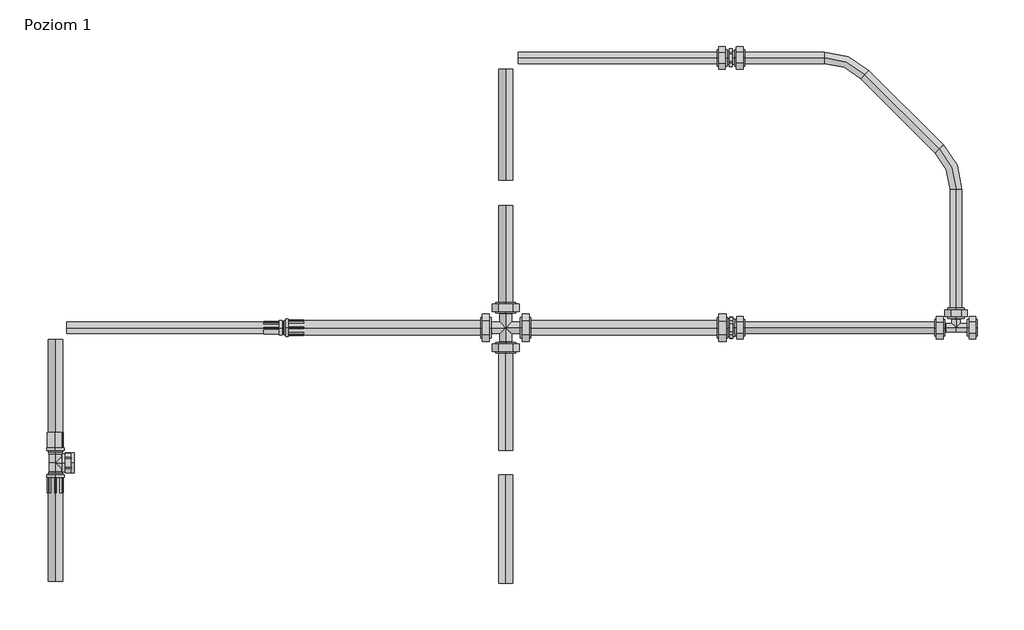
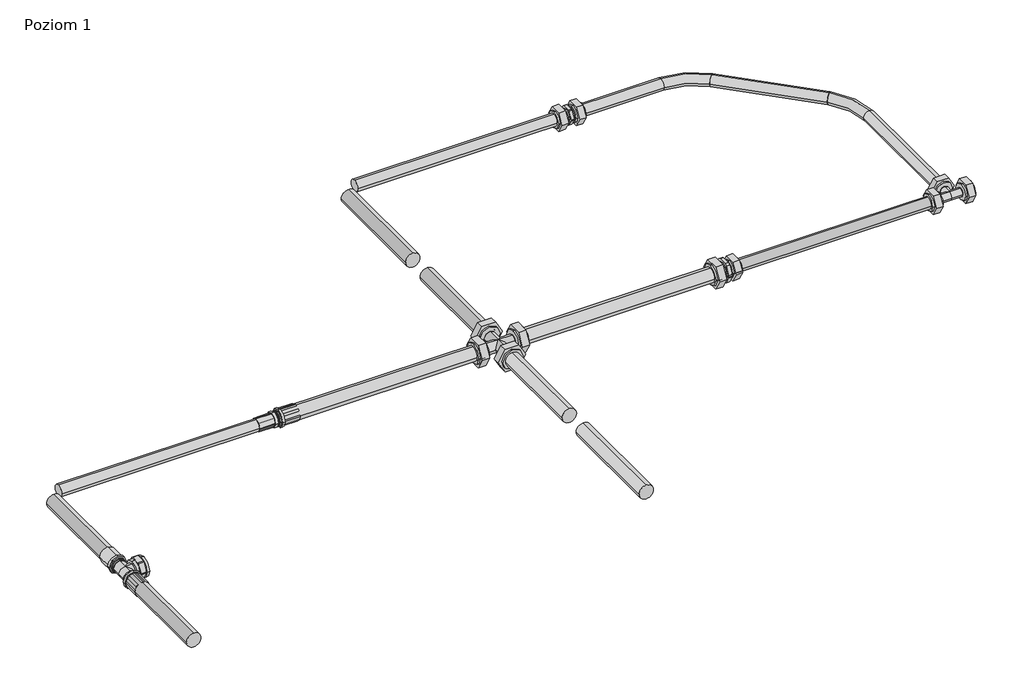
# One storey, incomplete: 14 pipe segments, 8 pipe fittings.
"""IFC4 building model written with IfcOpenShell, lengths in millimetres."""

from ifc_helpers import new_model, si_unit, point, frame, frame_2d, origin, place, context, project, spatial, circle_curve, trimmed, segment, composite_curve, outline, extrude, transform, mapped, element, save
from components import pipe_fitting_dd8a0c7b, pipe_fitting_013305a4, pipe_fitting_8bebbaeb, pipe_fitting_6f00802d, pipe_fitting_327e5bcb, pipe_fitting_d41fe6a2, pipe_fitting_75d7e237

model = new_model("IFC4")

# Units and contexts
model_context = context("Model", 3, world=origin())
ifc_project = project(units=[si_unit("LENGTHUNIT", "METRE", prefix="MILLI")], contexts=[model_context])

# Site, building, storey
site = spatial("IfcSite", under=ifc_project)
building = spatial("IfcBuilding", under=site)
storey = spatial("IfcBuildingStorey", under=building, Name="Poziom 1", Elevation=0.0)

# Pipe fittings
placement = place(None, origin())
pipe_fitting_shape = pipe_fitting_dd8a0c7b(model_context)
element("IfcPipeFitting", 1, ObjectType="HC-Kształtka-ParaForma-Tweetop-PERT-Trójnik : Tweetop", at=placement, inside=storey, context=model_context, shape_type="MappedRepresentation", body=[
    mapped(pipe_fitting_shape, transform((5207.5, 1000.0, 0.0), x_axis=(-1.0, 0.0, 0.0), y_axis=(0.0, -1.0, 0.0), z_axis=(0.0, 0.0, 1.0))),
])
pipe_fitting_2_shape = pipe_fitting_013305a4(model_context)
element("IfcPipeFitting", 2, ObjectType="HC-Kształtka-ParaForma-Tweetop-PERT-Trójnik_GW : Tweetop", at=placement, inside=storey, context=model_context, shape_type="MappedRepresentation", body=[
    mapped(pipe_fitting_2_shape, transform((3957.5, 812.5, 0.0), x_axis=(0.0, 1.0, 0.0), y_axis=(-1.0, 0.0, 0.0), z_axis=(0.0, 0.0, 1.0))),
])
pipe_fitting_3_shape = pipe_fitting_8bebbaeb(model_context)
element("IfcPipeFitting", 3, ObjectType="HC-Kształtka-ParaForma-Tweetop-PERT-Złączka : Tweetop", at=placement, inside=storey, context=model_context, shape_type="MappedRepresentation", body=[
    mapped(pipe_fitting_3_shape, transform((4895.0, 1375.0, 0.0), x_axis=(-1.0, 0.0, 0.0), y_axis=(0.0, -1.0, 0.0), z_axis=(0.0, 0.0, 1.0))),
])
pipe_fitting_4_shape = pipe_fitting_6f00802d(model_context)
element("IfcPipeFitting", 4, ObjectType="HC-Kształtka-ParaForma-Tweetop-PERT-Redukcja : Tweetop", at=placement, inside=storey, context=model_context, shape_type="MappedRepresentation", body=[
    mapped(pipe_fitting_4_shape, transform((4895.5, 1000.0, 0.0), x_axis=(1.0, 0.0, 0.0), y_axis=(0.0, 1.0, 0.0), z_axis=(0.0, 0.0, 1.0))),
])
pipe_fitting_5_shape = pipe_fitting_327e5bcb(model_context)
element("IfcPipeFitting", 5, ObjectType="HC-Kształtka-ParaForma-Tweetop-PERT-Redukcja : Tweetop", at=placement, inside=storey, context=model_context, shape_type="MappedRepresentation", body=[
    mapped(pipe_fitting_5_shape, transform((4274.5, 1000.0, 0.0), x_axis=(-1.0, 0.0, 0.0), y_axis=(0.0, -1.0, 0.0), z_axis=(0.0, 0.0, 1.0))),
])
pipe_fitting_6_shape = pipe_fitting_d41fe6a2(model_context)
element("IfcPipeFitting", 6, ObjectType="HC-Kształtka-ParaForma-Tweetop-PERT-Rura_PERT_EVOH_PERT_Gięcie : Tweetop", at=placement, inside=storey, context=model_context, shape_type="MappedRepresentation", body=[
    mapped(pipe_fitting_6_shape, transform((5057.5, 1375.0, 0.0), x_axis=(-0.7071067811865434, 0.7071067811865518, 0.0), y_axis=(-0.7071067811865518, -0.7071067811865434, 0.0), z_axis=(0.0, 0.0, 1.0))),
])
element("IfcPipeFitting", 7, ObjectType="HC-Kształtka-ParaForma-Tweetop-PERT-Rura_PERT_EVOH_PERT_Gięcie : Tweetop", at=placement, inside=storey, context=model_context, shape_type="MappedRepresentation", body=[
    mapped(pipe_fitting_6_shape, transform((5207.5, 1225.0, 0.0), x_axis=(0.0, 1.0, 0.0), y_axis=(-1.0, 0.0, 0.0), z_axis=(0.0, 0.0, 1.0))),
])
pipe_fitting_7_shape = pipe_fitting_75d7e237(model_context)
element("IfcPipeFitting", 8, ObjectType="HC-Kształtka-ParaForma-Tweetop-PERT-Czwórnik : Tweetop", at=placement, inside=storey, context=model_context, shape_type="MappedRepresentation", body=[
    mapped(pipe_fitting_7_shape, transform((4582.5, 1000.0, 0.0), x_axis=(0.0, -1.0, 0.0), y_axis=(-1.0, 0.0, 0.0), z_axis=(0.0, 0.0, -1.0))),
])

# Pipe segments
element("IfcPipeSegment", 9, ObjectType="HC-Rura-ParaForma-Tweetop-PERT-EVOH-PERT", at=placement, inside=storey, context=model_context, shape_type="SweptSolid", body=[
    extrude(outline(composite_curve([segment(trimmed(circle_curve(frame_2d((0.0, 8.0)), 8.0), [point((8.0, 8.0))], [point((0.0, 0.0))], False, "CARTESIAN"), True, "CONTINUOUS"), segment(trimmed(circle_curve(frame_2d((0.0, 8.0)), 8.0), [point((0.0, 0.0))], [point((-8.0, 8.0))], False, "CARTESIAN"), True, "CONTINUOUS"), segment(trimmed(circle_curve(frame_2d((0.0, 8.0)), 8.0), [point((-8.0, 8.0))], [point((0.0, 16.0))], False, "CARTESIAN"), True, "CONTINUOUS"), segment(trimmed(circle_curve(frame_2d((0.0, 8.0)), 8.0), [point((0.0, 16.0))], [point((8.0, 8.0))], False, "CARTESIAN"), True, "CONTINUOUS")], self_intersect=False)), frame((5184.0685425, 1248.4314575, 8.0), z_axis=(-0.7071067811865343, 0.7071067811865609, 0.0), x_axis=(0.7071067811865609, 0.7071067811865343, 0.0)), (0.0, 0.0, 1.0), 145.8578644),
])
element("IfcPipeSegment", 10, ObjectType="HC-Rura-ParaForma-Tweetop-PERT-EVOH-PERT", at=placement, inside=storey, context=model_context, shape_type="SweptSolid", body=[
    extrude(outline(composite_curve([segment(trimmed(circle_curve(frame_2d((0.0, 5207.5)), 8.0), [point((0.0, 5215.5))], [point((8.0, 5207.5))], False, "CARTESIAN"), True, "CONTINUOUS"), segment(trimmed(circle_curve(frame_2d((0.0, 5207.5)), 8.0), [point((8.0, 5207.5))], [point((0.0, 5199.5))], False, "CARTESIAN"), True, "CONTINUOUS"), segment(trimmed(circle_curve(frame_2d((0.0, 5207.5)), 8.0), [point((0.0, 5199.5))], [point((-8.0, 5207.5))], False, "CARTESIAN"), True, "CONTINUOUS"), segment(trimmed(circle_curve(frame_2d((0.0, 5207.5)), 8.0), [point((-8.0, 5207.5))], [point((0.0, 5215.5))], False, "CARTESIAN"), True, "CONTINUOUS")], self_intersect=False)), frame((0.0, 1015.0, 0.0), z_axis=(0.0, 1.0, 0.0), x_axis=(0.0, 0.0, 1.0)), (0.0, 0.0, 1.0), 176.862915),
])
element("IfcPipeSegment", 11, ObjectType="HC-Rura-ParaForma-Tweetop-PERT-EVOH-PERT", at=placement, inside=storey, context=model_context, shape_type="SweptSolid", body=[
    extrude(outline(composite_curve([segment(trimmed(circle_curve(frame_2d((0.0, 4582.5)), 10.0), [point((0.0, 4572.5))], [point((-10.0, 4582.5))], False, "CARTESIAN"), True, "CONTINUOUS"), segment(trimmed(circle_curve(frame_2d((0.0, 4582.5)), 10.0), [point((-10.0, 4582.5))], [point((0.0, 4592.5))], False, "CARTESIAN"), True, "CONTINUOUS"), segment(trimmed(circle_curve(frame_2d((0.0, 4582.5)), 10.0), [point((0.0, 4592.5))], [point((10.0, 4582.5))], False, "CARTESIAN"), True, "CONTINUOUS"), segment(trimmed(circle_curve(frame_2d((0.0, 4582.5)), 10.0), [point((10.0, 4582.5))], [point((0.0, 4572.5))], False, "CARTESIAN"), True, "CONTINUOUS")], self_intersect=False)), frame((0.0, 1022.2, 0.0), z_axis=(0.0, 1.0, 0.0), x_axis=(0.0, 0.0, 1.0)), (0.0, 0.0, 1.0), 147.8),
])
element("IfcPipeSegment", 12, ObjectType="HC-Rura-ParaForma-Tweetop-PERT/Al/PERT", at=placement, inside=storey, context=model_context, shape_type="SweptSolid", body=[
    extrude(outline(composite_curve([segment(trimmed(circle_curve(frame_2d((0.0, 4582.5)), 10.0), [point((0.0, 4592.5))], [point((10.0, 4582.5))], False, "CARTESIAN"), True, "CONTINUOUS"), segment(trimmed(circle_curve(frame_2d((0.0, 4582.5)), 10.0), [point((10.0, 4582.5))], [point((0.0, 4572.5))], False, "CARTESIAN"), True, "CONTINUOUS"), segment(trimmed(circle_curve(frame_2d((0.0, 4582.5)), 10.0), [point((0.0, 4572.5))], [point((-10.0, 4582.5))], False, "CARTESIAN"), True, "CONTINUOUS"), segment(trimmed(circle_curve(frame_2d((0.0, 4582.5)), 10.0), [point((-10.0, 4582.5))], [point((0.0, 4592.5))], False, "CARTESIAN"), True, "CONTINUOUS")], self_intersect=False)), frame((0.0, 829.5, 0.0), z_axis=(0.0, 1.0, 0.0), x_axis=(0.0, 0.0, 1.0)), (0.0, 0.0, 1.0), 148.3),
])
element("IfcPipeSegment", 13, ObjectType="HC-Rura-ParaForma-Tweetop-PERT/Al/PERT", at=placement, inside=storey, context=model_context, shape_type="SweptSolid", body=[
    extrude(outline(composite_curve([segment(trimmed(circle_curve(frame_2d((0.0, 3957.5)), 10.0), [point((0.0, 3947.5))], [point((-10.0, 3957.5))], False, "CARTESIAN"), True, "CONTINUOUS"), segment(trimmed(circle_curve(frame_2d((0.0, 3957.5)), 10.0), [point((-10.0, 3957.5))], [point((0.0, 3967.5))], False, "CARTESIAN"), True, "CONTINUOUS"), segment(trimmed(circle_curve(frame_2d((0.0, 3957.5)), 10.0), [point((0.0, 3967.5))], [point((10.0, 3957.5))], False, "CARTESIAN"), True, "CONTINUOUS"), segment(trimmed(circle_curve(frame_2d((0.0, 3957.5)), 10.0), [point((10.0, 3957.5))], [point((0.0, 3947.5))], False, "CARTESIAN"), True, "CONTINUOUS")], self_intersect=False)), frame((0.0, 648.0, 0.0), z_axis=(0.0, 1.0, 0.0), x_axis=(0.0, 0.0, 1.0)), (0.0, 0.0, 1.0), 145.5),
])
element("IfcPipeSegment", 14, ObjectType="HC-Rura-ParaForma-Tweetop-PERT-EVOH-PERT", at=placement, inside=storey, context=model_context, shape_type="SweptSolid", body=[
    extrude(outline(composite_curve([segment(trimmed(circle_curve(frame_2d((1000.0, 0.0)), 10.0), [point((1010.0, 0.0))], [point((1000.0, -10.0))], False, "CARTESIAN"), True, "CONTINUOUS"), segment(trimmed(circle_curve(frame_2d((1000.0, 0.0)), 10.0), [point((1000.0, -10.0))], [point((990.0, 0.0))], False, "CARTESIAN"), True, "CONTINUOUS"), segment(trimmed(circle_curve(frame_2d((1000.0, 0.0)), 10.0), [point((990.0, 0.0))], [point((1000.0, 10.0))], False, "CARTESIAN"), True, "CONTINUOUS"), segment(trimmed(circle_curve(frame_2d((1000.0, 0.0)), 10.0), [point((1000.0, 10.0))], [point((1010.0, 0.0))], False, "CARTESIAN"), True, "CONTINUOUS")], self_intersect=False)), frame((4604.7, 0.0, 0.0), z_axis=(1.0, 0.0, 0.0), x_axis=(0.0, 1.0, 0.0)), (0.0, 0.0, 1.0), 284.1),
])
element("IfcPipeSegment", 15, ObjectType="HC-Rura-ParaForma-Tweetop-PERT/Al/PERT", at=placement, inside=storey, context=model_context, shape_type="SweptSolid", body=[
    extrude(outline(composite_curve([segment(trimmed(circle_curve(frame_2d((1000.0, 0.0)), 10.0), [point((1010.0, 0.0))], [point((1000.0, -10.0))], False, "CARTESIAN"), True, "CONTINUOUS"), segment(trimmed(circle_curve(frame_2d((1000.0, 0.0)), 10.0), [point((1000.0, -10.0))], [point((990.0, 0.0))], False, "CARTESIAN"), True, "CONTINUOUS"), segment(trimmed(circle_curve(frame_2d((1000.0, 0.0)), 10.0), [point((990.0, 0.0))], [point((1000.0, 10.0))], False, "CARTESIAN"), True, "CONTINUOUS"), segment(trimmed(circle_curve(frame_2d((1000.0, 0.0)), 10.0), [point((1000.0, 10.0))], [point((1010.0, 0.0))], False, "CARTESIAN"), True, "CONTINUOUS")], self_intersect=False)), frame((4279.0, 0.0, 0.0), z_axis=(1.0, 0.0, 0.0), x_axis=(0.0, 1.0, 0.0)), (0.0, 0.0, 1.0), 281.3),
])
element("IfcPipeSegment", 16, ObjectType="HC-Rura-ParaForma-Tweetop-PERT-EVOH-PERT", at=placement, inside=storey, context=model_context, shape_type="SweptSolid", body=[
    extrude(outline(composite_curve([segment(trimmed(circle_curve(frame_2d((1375.0, 0.0)), 8.0), [point((1383.0, 0.0))], [point((1375.0, -8.0))], False, "CARTESIAN"), True, "CONTINUOUS"), segment(trimmed(circle_curve(frame_2d((1375.0, 0.0)), 8.0), [point((1375.0, -8.0))], [point((1367.0, 0.0))], False, "CARTESIAN"), True, "CONTINUOUS"), segment(trimmed(circle_curve(frame_2d((1375.0, 0.0)), 8.0), [point((1367.0, 0.0))], [point((1375.0, 8.0))], False, "CARTESIAN"), True, "CONTINUOUS"), segment(trimmed(circle_curve(frame_2d((1375.0, 0.0)), 8.0), [point((1375.0, 8.0))], [point((1383.0, 0.0))], False, "CARTESIAN"), True, "CONTINUOUS")], self_intersect=False)), frame((4600.0, 0.0, 0.0), z_axis=(1.0, 0.0, 0.0), x_axis=(0.0, 1.0, 0.0)), (0.0, 0.0, 1.0), 288.0),
])
element("IfcPipeSegment", 17, ObjectType="HC-Rura-ParaForma-Tweetop-PERT/Al/PERT", at=placement, inside=storey, context=model_context, shape_type="SweptSolid", body=[
    extrude(outline(composite_curve([segment(trimmed(circle_curve(frame_2d((1000.0, 0.0)), 8.0), [point((1008.0, 0.0))], [point((1000.0, -8.0))], False, "CARTESIAN"), True, "CONTINUOUS"), segment(trimmed(circle_curve(frame_2d((1000.0, 0.0)), 8.0), [point((1000.0, -8.0))], [point((992.0, 0.0))], False, "CARTESIAN"), True, "CONTINUOUS"), segment(trimmed(circle_curve(frame_2d((1000.0, 0.0)), 8.0), [point((992.0, 0.0))], [point((1000.0, 8.0))], False, "CARTESIAN"), True, "CONTINUOUS"), segment(trimmed(circle_curve(frame_2d((1000.0, 0.0)), 8.0), [point((1000.0, 8.0))], [point((1008.0, 0.0))], False, "CARTESIAN"), True, "CONTINUOUS")], self_intersect=False)), frame((3973.5, 0.0, 0.0), z_axis=(1.0, 0.0, 0.0), x_axis=(0.0, 1.0, 0.0)), (0.0, 0.0, 1.0), 296.5),
])
element("IfcPipeSegment", 18, ObjectType="HC-Rura-ParaForma-Tweetop-PERT-EVOH-PERT", at=placement, inside=storey, context=model_context, shape_type="SweptSolid", body=[
    extrude(outline(composite_curve([segment(trimmed(circle_curve(frame_2d((1000.0, 0.0)), 8.0), [point((992.0, 0.0))], [point((1000.0, 8.0))], False, "CARTESIAN"), True, "CONTINUOUS"), segment(trimmed(circle_curve(frame_2d((1000.0, 0.0)), 8.0), [point((1000.0, 8.0))], [point((1008.0, 0.0))], False, "CARTESIAN"), True, "CONTINUOUS"), segment(trimmed(circle_curve(frame_2d((1000.0, 0.0)), 8.0), [point((1008.0, 0.0))], [point((1000.0, -8.0))], False, "CARTESIAN"), True, "CONTINUOUS"), segment(trimmed(circle_curve(frame_2d((1000.0, 0.0)), 8.0), [point((1000.0, -8.0))], [point((992.0, 0.0))], False, "CARTESIAN"), True, "CONTINUOUS")], self_intersect=False)), frame((4902.2, 0.0, 0.0), z_axis=(1.0, 0.0, 0.0), x_axis=(0.0, 1.0, 0.0)), (0.0, 0.0, 1.0), 287.8),
])
element("IfcPipeSegment", 19, ObjectType="HC-Rura-ParaForma-Tweetop-PERT-EVOH-PERT", at=placement, inside=storey, context=model_context, shape_type="SweptSolid", body=[
    extrude(outline(composite_curve([segment(trimmed(circle_curve(frame_2d((1375.0, 0.0)), 8.0), [point((1383.0, 0.0))], [point((1375.0, -8.0))], False, "CARTESIAN"), True, "CONTINUOUS"), segment(trimmed(circle_curve(frame_2d((1375.0, 0.0)), 8.0), [point((1375.0, -8.0))], [point((1367.0, 0.0))], False, "CARTESIAN"), True, "CONTINUOUS"), segment(trimmed(circle_curve(frame_2d((1375.0, 0.0)), 8.0), [point((1367.0, 0.0))], [point((1375.0, 8.0))], False, "CARTESIAN"), True, "CONTINUOUS"), segment(trimmed(circle_curve(frame_2d((1375.0, 0.0)), 8.0), [point((1375.0, 8.0))], [point((1383.0, 0.0))], False, "CARTESIAN"), True, "CONTINUOUS")], self_intersect=False)), frame((4902.0, 0.0, 0.0), z_axis=(1.0, 0.0, 0.0), x_axis=(0.0, 1.0, 0.0)), (0.0, 0.0, 1.0), 122.362915),
])
element("IfcPipeSegment", 20, ObjectType="HC-Rura-ParaForma-Tweetop-PERT/Al/PERT", at=placement, inside=storey, context=model_context, shape_type="SweptSolid", body=[
    extrude(outline(composite_curve([segment(trimmed(circle_curve(frame_2d((0.0, 3957.5)), 10.0), [point((0.0, 3947.5))], [point((-10.0, 3957.5))], False, "CARTESIAN"), True, "CONTINUOUS"), segment(trimmed(circle_curve(frame_2d((0.0, 3957.5)), 10.0), [point((-10.0, 3957.5))], [point((0.0, 3967.5))], False, "CARTESIAN"), True, "CONTINUOUS"), segment(trimmed(circle_curve(frame_2d((0.0, 3957.5)), 10.0), [point((0.0, 3967.5))], [point((10.0, 3957.5))], False, "CARTESIAN"), True, "CONTINUOUS"), segment(trimmed(circle_curve(frame_2d((0.0, 3957.5)), 10.0), [point((10.0, 3957.5))], [point((0.0, 3947.5))], False, "CARTESIAN"), True, "CONTINUOUS")], self_intersect=False)), frame((0.0, 831.5, 0.0), z_axis=(0.0, 1.0, 0.0), x_axis=(0.0, 0.0, 1.0)), (0.0, 0.0, 1.0), 152.0),
])
element("IfcPipeSegment", 21, ObjectType="HC-Rura-ParaForma-Tweetop-PERT/Al/PERT", at=placement, inside=storey, context=model_context, shape_type="SweptSolid", body=[
    extrude(outline(composite_curve([segment(trimmed(circle_curve(frame_2d((0.0, 4582.5)), 10.0), [point((0.0, 4592.5))], [point((10.0, 4582.5))], False, "CARTESIAN"), True, "CONTINUOUS"), segment(trimmed(circle_curve(frame_2d((0.0, 4582.5)), 10.0), [point((10.0, 4582.5))], [point((0.0, 4572.5))], False, "CARTESIAN"), True, "CONTINUOUS"), segment(trimmed(circle_curve(frame_2d((0.0, 4582.5)), 10.0), [point((0.0, 4572.5))], [point((-10.0, 4582.5))], False, "CARTESIAN"), True, "CONTINUOUS"), segment(trimmed(circle_curve(frame_2d((0.0, 4582.5)), 10.0), [point((-10.0, 4582.5))], [point((0.0, 4592.5))], False, "CARTESIAN"), True, "CONTINUOUS")], self_intersect=False)), frame((0.0, 645.0, 0.0), z_axis=(0.0, 1.0, 0.0), x_axis=(0.0, 0.0, 1.0)), (0.0, 0.0, 1.0), 150.5),
])
element("IfcPipeSegment", 22, ObjectType="HC-Rura-ParaForma-Tweetop-PERT-EVOH-PERT", at=placement, inside=storey, context=model_context, shape_type="SweptSolid", body=[
    extrude(outline(composite_curve([segment(trimmed(circle_curve(frame_2d((0.0, 4582.5)), 10.0), [point((0.0, 4572.5))], [point((-10.0, 4582.5))], False, "CARTESIAN"), True, "CONTINUOUS"), segment(trimmed(circle_curve(frame_2d((0.0, 4582.5)), 10.0), [point((-10.0, 4582.5))], [point((0.0, 4592.5))], False, "CARTESIAN"), True, "CONTINUOUS"), segment(trimmed(circle_curve(frame_2d((0.0, 4582.5)), 10.0), [point((0.0, 4592.5))], [point((10.0, 4582.5))], False, "CARTESIAN"), True, "CONTINUOUS"), segment(trimmed(circle_curve(frame_2d((0.0, 4582.5)), 10.0), [point((10.0, 4582.5))], [point((0.0, 4572.5))], False, "CARTESIAN"), True, "CONTINUOUS")], self_intersect=False)), frame((0.0, 1205.0, 0.0), z_axis=(0.0, 1.0, 0.0), x_axis=(0.0, 0.0, 1.0)), (0.0, 0.0, 1.0), 154.0),
])

save(model, "model.ifc")
